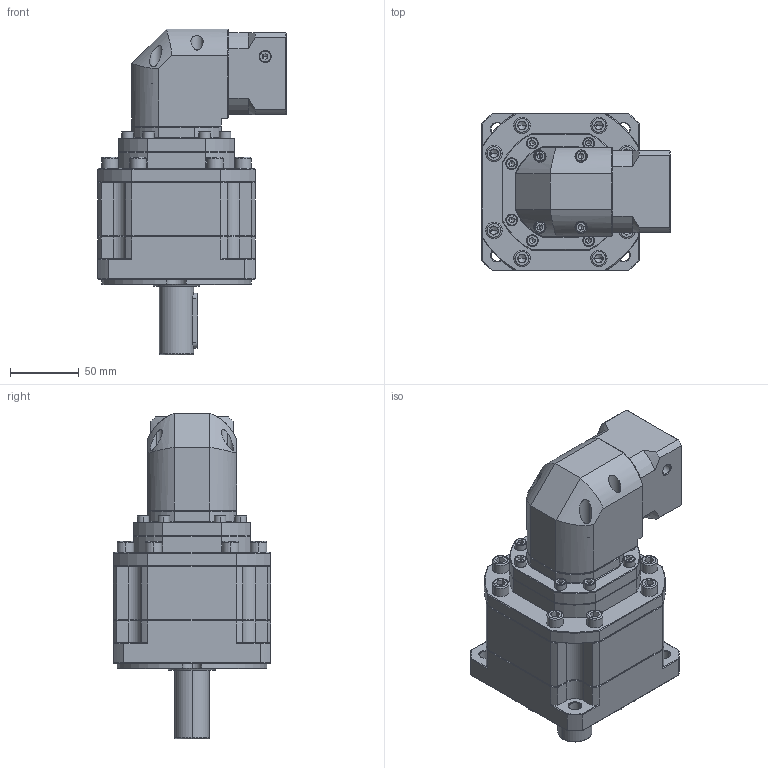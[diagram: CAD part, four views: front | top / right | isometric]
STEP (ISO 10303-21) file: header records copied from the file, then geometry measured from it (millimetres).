
FILE_DESCRIPTION (( 'STEP AP214' ), '1' );
FILE_NAME ('ZBR115A-D25-L3-P2-14-50-70-M5.step', '2023-08-26T14:05:32', ( '' ), ( '' ), 'SwSTEP 2.0', 'SolidWorks 2016', '' );
FILE_SCHEMA (( 'AUTOMOTIVE_DESIGN' ));
Length unit declared in the file: millimetre
Products named in the file (1): ZBR115A-D25-L3-P2-14-50-70-M5
Bounding box: 137.7 x 115 x 237.5 mm (x, y, z)
Volume: 1550817.9 mm3; surface area: 144993.1 mm2
Topology: 6 solids, 6 shells, 2636 faces, 6920 edges, 4404 vertices
Faces by surface type: plane 1299, cylinder 485, bspline 455, cone 389, torus 8
Entity records: 136861 total; most frequent: CARTESIAN_POINT 46542, ORIENTED_EDGE 13716, DIRECTION 11112, EDGE_CURVE 6858, VERTEX_POINT 4404, LINE 4364, VECTOR 4364, AXIS2_PLACEMENT_3D 3374
